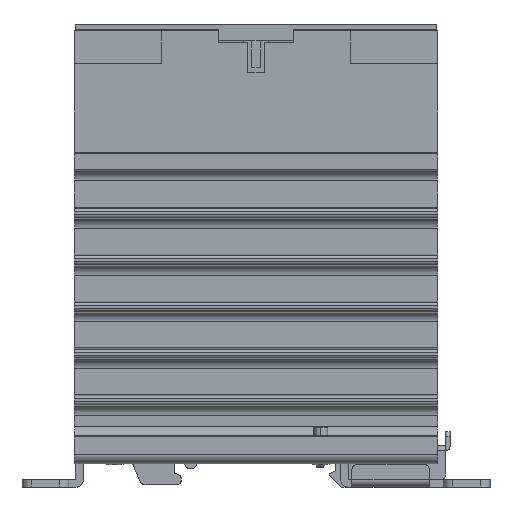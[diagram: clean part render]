
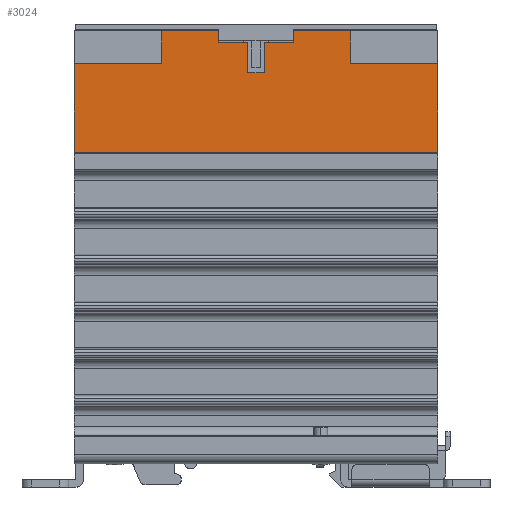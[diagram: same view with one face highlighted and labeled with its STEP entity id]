
A CAD part, top view. The second image highlights one B-rep face of the part: STEP entity #3024.
In plain terms, the highlighted planar face has unit normal (0, 0, 1).
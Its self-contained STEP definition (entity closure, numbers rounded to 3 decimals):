
#72 = EDGE_CURVE ( 'NONE', #19574, #14766, #17140, .T. ) ;
#179 = EDGE_CURVE ( 'NONE', #9744, #8413, #19510, .T. ) ;
#265 = DIRECTION ( 'NONE',  ( -1., 0., 0. ) ) ;
#464 = DIRECTION ( 'NONE',  ( 1., 0., 0. ) ) ;
#521 = LINE ( 'NONE', #17382, #18083 ) ;
#527 = VECTOR ( 'NONE', #1952, 1000. ) ;
#533 = LINE ( 'NONE', #7690, #8487 ) ;
#619 = LINE ( 'NONE', #18274, #5137 ) ;
#664 = EDGE_CURVE ( 'NONE', #1487, #4117, #11276, .T. ) ;
#858 = VECTOR ( 'NONE', #1516, 1000. ) ;
#1097 = CARTESIAN_POINT ( 'NONE',  ( 38.8, 0., 20.45 ) ) ;
#1487 = VERTEX_POINT ( 'NONE', #11042 ) ;
#1516 = DIRECTION ( 'NONE',  ( 0., -1., 0. ) ) ;
#1952 = DIRECTION ( 'NONE',  ( 0., -1., 0. ) ) ;
#2051 = VECTOR ( 'NONE', #11031, 1000. ) ;
#2274 = ORIENTED_EDGE ( 'NONE', *, *, #7162, .T. ) ;
#2587 = LINE ( 'NONE', #12671, #2051 ) ;
#2722 = DIRECTION ( 'NONE',  ( 1., 0., 0. ) ) ;
#2806 = EDGE_CURVE ( 'NONE', #8413, #1487, #21026, .T. ) ;
#3024 = ADVANCED_FACE ( 'NONE', ( #13307 ), #7252, .F. ) ;
#3239 = EDGE_CURVE ( 'NONE', #14766, #10495, #533, .T. ) ;
#3314 = DIRECTION ( 'NONE',  ( 1., 0., 0. ) ) ;
#3552 = CARTESIAN_POINT ( 'NONE',  ( -8.05, 23.5, 20.45 ) ) ;
#3615 = CARTESIAN_POINT ( 'NONE',  ( -38.8, 22.1, 20.45 ) ) ;
#4018 = VERTEX_POINT ( 'NONE', #15925 ) ;
#4052 = ORIENTED_EDGE ( 'NONE', *, *, #179, .F. ) ;
#4112 = ORIENTED_EDGE ( 'NONE', *, *, #19713, .T. ) ;
#4117 = VERTEX_POINT ( 'NONE', #15389 ) ;
#4393 = ORIENTED_EDGE ( 'NONE', *, *, #21480, .F. ) ;
#4411 = CARTESIAN_POINT ( 'NONE',  ( -38.8, 0., 20.45 ) ) ;
#4451 = EDGE_CURVE ( 'NONE', #4018, #9744, #619, .T. ) ;
#4611 = VERTEX_POINT ( 'NONE', #6970 ) ;
#4637 = EDGE_CURVE ( 'NONE', #10495, #18223, #13929, .T. ) ;
#4912 = EDGE_CURVE ( 'NONE', #18916, #11185, #18169, .T. ) ;
#5137 = VECTOR ( 'NONE', #16455, 1000. ) ;
#5445 = DIRECTION ( 'NONE',  ( 1., 0., 0. ) ) ;
#5467 = VECTOR ( 'NONE', #7127, 1000. ) ;
#6074 = CARTESIAN_POINT ( 'NONE',  ( 1.8, 23.5, 20.45 ) ) ;
#6381 = VECTOR ( 'NONE', #2722, 1000. ) ;
#6877 = DIRECTION ( 'NONE',  ( 0., 1., 0. ) ) ;
#6888 = EDGE_CURVE ( 'NONE', #16091, #18916, #12254, .T. ) ;
#6970 = CARTESIAN_POINT ( 'NONE',  ( 8.05, 26., 20.45 ) ) ;
#7127 = DIRECTION ( 'NONE',  ( 1., 0., 0. ) ) ;
#7162 = EDGE_CURVE ( 'NONE', #7359, #18223, #10914, .T. ) ;
#7252 = PLANE ( 'NONE',  #10110 ) ;
#7323 = CARTESIAN_POINT ( 'NONE',  ( 38.8, 22.1, 20.45 ) ) ;
#7359 = VERTEX_POINT ( 'NONE', #10143 ) ;
#7508 = CARTESIAN_POINT ( 'NONE',  ( -1.8, 17., 20.45 ) ) ;
#7530 = ORIENTED_EDGE ( 'NONE', *, *, #11175, .F. ) ;
#7672 = ORIENTED_EDGE ( 'NONE', *, *, #2806, .F. ) ;
#7690 = CARTESIAN_POINT ( 'NONE',  ( -38.8, 19., 20.45 ) ) ;
#7753 = CARTESIAN_POINT ( 'NONE',  ( 20.2, 68.533, 20.45 ) ) ;
#8135 = LINE ( 'NONE', #20827, #16153 ) ;
#8413 = VERTEX_POINT ( 'NONE', #12105 ) ;
#8487 = VECTOR ( 'NONE', #16531, 1000. ) ;
#8588 = VECTOR ( 'NONE', #9612, 1000. ) ;
#8981 = CARTESIAN_POINT ( 'NONE',  ( -38.8, 19., 20.45 ) ) ;
#9108 = VECTOR ( 'NONE', #16581, 1000. ) ;
#9350 = ORIENTED_EDGE ( 'NONE', *, *, #3239, .F. ) ;
#9612 = DIRECTION ( 'NONE',  ( 0., -1., 0. ) ) ;
#9744 = VERTEX_POINT ( 'NONE', #7508 ) ;
#9933 = ORIENTED_EDGE ( 'NONE', *, *, #11472, .T. ) ;
#10110 = AXIS2_PLACEMENT_3D ( 'NONE', #3615, #13809, #265 ) ;
#10143 = CARTESIAN_POINT ( 'NONE',  ( -38.8, 0., 20.45 ) ) ;
#10327 = VERTEX_POINT ( 'NONE', #8981 ) ;
#10436 = CARTESIAN_POINT ( 'NONE',  ( -20.2, 68.533, 20.45 ) ) ;
#10495 = VERTEX_POINT ( 'NONE', #16831 ) ;
#10655 = VERTEX_POINT ( 'NONE', #10717 ) ;
#10717 = CARTESIAN_POINT ( 'NONE',  ( -20.2, 19., 20.45 ) ) ;
#10914 = LINE ( 'NONE', #4411, #6381 ) ;
#11031 = DIRECTION ( 'NONE',  ( 0., -1., 0. ) ) ;
#11042 = CARTESIAN_POINT ( 'NONE',  ( 1.8, 23.5, 20.45 ) ) ;
#11175 = EDGE_CURVE ( 'NONE', #4117, #4611, #12130, .T. ) ;
#11185 = VERTEX_POINT ( 'NONE', #3552 ) ;
#11230 = ORIENTED_EDGE ( 'NONE', *, *, #4451, .F. ) ;
#11276 = LINE ( 'NONE', #15909, #19784 ) ;
#11472 = EDGE_CURVE ( 'NONE', #10327, #7359, #2587, .T. ) ;
#11759 = CARTESIAN_POINT ( 'NONE',  ( 20.2, 26., 20.45 ) ) ;
#12105 = CARTESIAN_POINT ( 'NONE',  ( 1.8, 17., 20.45 ) ) ;
#12130 = LINE ( 'NONE', #17099, #16678 ) ;
#12198 = CARTESIAN_POINT ( 'NONE',  ( 20.2, 26., 20.45 ) ) ;
#12254 = LINE ( 'NONE', #13496, #20761 ) ;
#12409 = CARTESIAN_POINT ( 'NONE',  ( 20.2, 19., 20.45 ) ) ;
#12423 = ORIENTED_EDGE ( 'NONE', *, *, #16026, .F. ) ;
#12455 = EDGE_CURVE ( 'NONE', #4611, #19574, #19051, .T. ) ;
#12671 = CARTESIAN_POINT ( 'NONE',  ( -38.8, 22.1, 20.45 ) ) ;
#13134 = CARTESIAN_POINT ( 'NONE',  ( -8.05, 26., 20.45 ) ) ;
#13226 = EDGE_LOOP ( 'NONE', ( #12423, #16456, #16072, #4112, #4393, #9933, #2274, #16011, #9350, #18687, #21569, #7530, #17353, #7672, #4052, #11230 ) ) ;
#13307 = FACE_OUTER_BOUND ( 'NONE', #13226, .T. ) ;
#13496 = CARTESIAN_POINT ( 'NONE',  ( 20.2, 26., 20.45 ) ) ;
#13809 = DIRECTION ( 'NONE',  ( 0., 0., -1. ) ) ;
#13929 = LINE ( 'NONE', #7323, #858 ) ;
#13960 = DIRECTION ( 'NONE',  ( 0., 1., 0. ) ) ;
#14412 = DIRECTION ( 'NONE',  ( 1., 0., 0. ) ) ;
#14442 = CARTESIAN_POINT ( 'NONE',  ( -1.8, 17., 20.45 ) ) ;
#14766 = VERTEX_POINT ( 'NONE', #12409 ) ;
#15002 = VECTOR ( 'NONE', #14412, 1000. ) ;
#15389 = CARTESIAN_POINT ( 'NONE',  ( 8.05, 23.5, 20.45 ) ) ;
#15909 = CARTESIAN_POINT ( 'NONE',  ( 8.05, 23.5, 20.45 ) ) ;
#15925 = CARTESIAN_POINT ( 'NONE',  ( -1.8, 23.5, 20.45 ) ) ;
#16011 = ORIENTED_EDGE ( 'NONE', *, *, #4637, .F. ) ;
#16026 = EDGE_CURVE ( 'NONE', #11185, #4018, #521, .T. ) ;
#16072 = ORIENTED_EDGE ( 'NONE', *, *, #6888, .F. ) ;
#16091 = VERTEX_POINT ( 'NONE', #20282 ) ;
#16153 = VECTOR ( 'NONE', #464, 1000. ) ;
#16455 = DIRECTION ( 'NONE',  ( 0., -1., 0. ) ) ;
#16456 = ORIENTED_EDGE ( 'NONE', *, *, #4912, .F. ) ;
#16531 = DIRECTION ( 'NONE',  ( 1., 0., 0. ) ) ;
#16581 = DIRECTION ( 'NONE',  ( 0., -1., 0. ) ) ;
#16646 = CARTESIAN_POINT ( 'NONE',  ( -8.05, 26., 20.45 ) ) ;
#16678 = VECTOR ( 'NONE', #6877, 1000. ) ;
#16831 = CARTESIAN_POINT ( 'NONE',  ( 38.8, 19., 20.45 ) ) ;
#17099 = CARTESIAN_POINT ( 'NONE',  ( 8.05, 26., 20.45 ) ) ;
#17140 = LINE ( 'NONE', #7753, #8588 ) ;
#17353 = ORIENTED_EDGE ( 'NONE', *, *, #664, .F. ) ;
#17382 = CARTESIAN_POINT ( 'NONE',  ( -8.05, 23.5, 20.45 ) ) ;
#18083 = VECTOR ( 'NONE', #5445, 1000. ) ;
#18169 = LINE ( 'NONE', #13134, #9108 ) ;
#18223 = VERTEX_POINT ( 'NONE', #1097 ) ;
#18274 = CARTESIAN_POINT ( 'NONE',  ( -1.8, 23.5, 20.45 ) ) ;
#18636 = LINE ( 'NONE', #10436, #527 ) ;
#18687 = ORIENTED_EDGE ( 'NONE', *, *, #72, .F. ) ;
#18916 = VERTEX_POINT ( 'NONE', #16646 ) ;
#19051 = LINE ( 'NONE', #12198, #5467 ) ;
#19510 = LINE ( 'NONE', #14442, #15002 ) ;
#19574 = VERTEX_POINT ( 'NONE', #11759 ) ;
#19713 = EDGE_CURVE ( 'NONE', #16091, #10655, #18636, .T. ) ;
#19784 = VECTOR ( 'NONE', #21393, 1000. ) ;
#20282 = CARTESIAN_POINT ( 'NONE',  ( -20.2, 26., 20.45 ) ) ;
#20761 = VECTOR ( 'NONE', #3314, 1000. ) ;
#20827 = CARTESIAN_POINT ( 'NONE',  ( -38.8, 19., 20.45 ) ) ;
#21026 = LINE ( 'NONE', #6074, #21539 ) ;
#21393 = DIRECTION ( 'NONE',  ( 1., 0., 0. ) ) ;
#21480 = EDGE_CURVE ( 'NONE', #10327, #10655, #8135, .T. ) ;
#21539 = VECTOR ( 'NONE', #13960, 1000. ) ;
#21569 = ORIENTED_EDGE ( 'NONE', *, *, #12455, .F. ) ;
